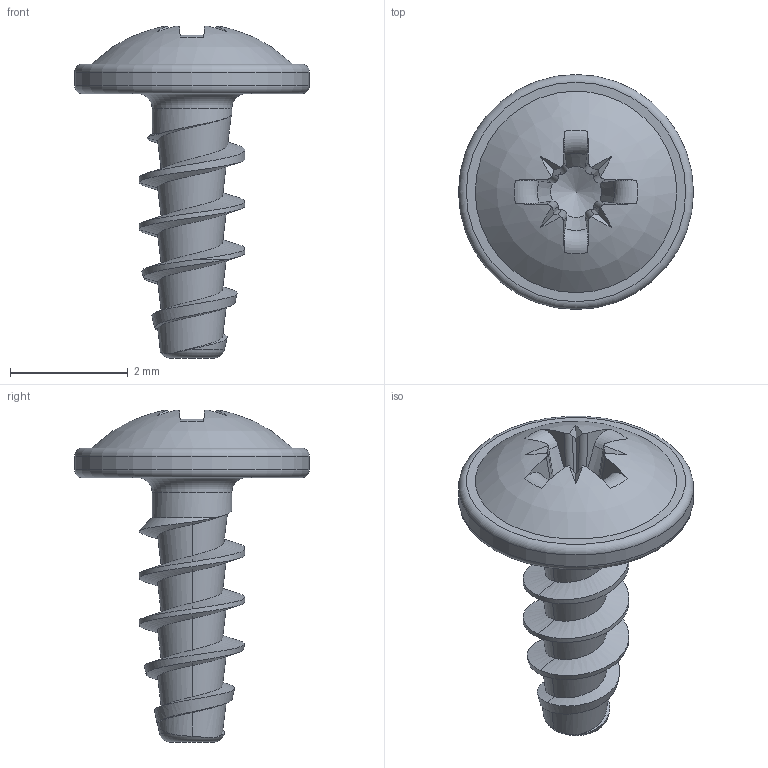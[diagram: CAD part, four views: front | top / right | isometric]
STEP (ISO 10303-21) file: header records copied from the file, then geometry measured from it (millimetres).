
FILE_DESCRIPTION(/* description */ (''),/* implementation_level */ '2;1');
FILE_NAME(/* name */ 'KN1031-STS-18x4,5-Z0.step',/* time_stamp */ '2017-10-12T14:19:38+02:00',/* author */ (''),/* organization */ (''),/* preprocessor_version */ 'ST-DEVELOPER v16',/* originating_system */ 'SIEMENS PLM Software NX 10.0',/* authorisation */ '');
FILE_SCHEMA (('AUTOMOTIVE_DESIGN { 1 0 10303 214 3 1 1 1 }'));
Length unit declared in the file: millimetre
Products named in the file (1): KN1031-STS-18x4,5-Z0
Bounding box: 4 x 4 x 5.65 mm (x, y, z)
Volume: 14.5 mm3; surface area: 59.1 mm2
Topology: 1 solids, 1 shells, 72 faces, 192 edges, 123 vertices
Faces by surface type: plane 28, bspline 17, cylinder 11, torus 8, cone 7, sphere 1
Full cylindrical faces by diameter (mm): 1.36 x1, 4 x1
Entity records: 3505 total; most frequent: CARTESIAN_POINT 1932, ORIENTED_EDGE 356, DIRECTION 256, EDGE_CURVE 178, VERTEX_POINT 118, AXIS2_PLACEMENT_3D 105, B_SPLINE_CURVE_WITH_KNOTS 83, EDGE_LOOP 81
